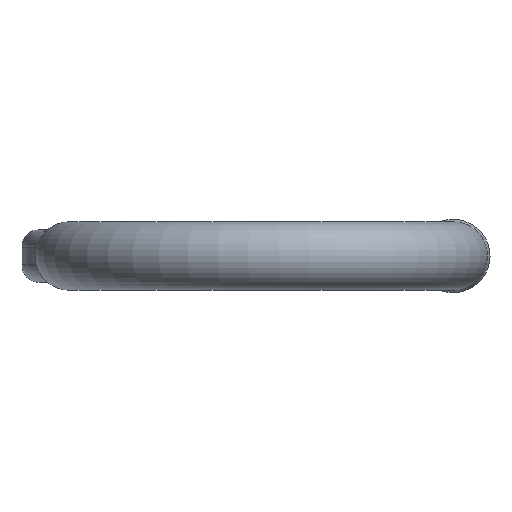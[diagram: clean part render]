
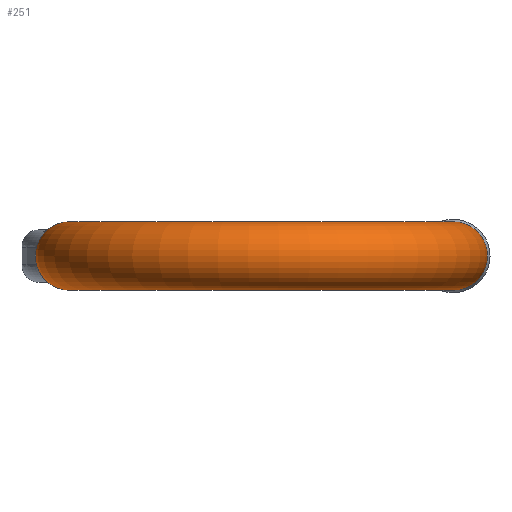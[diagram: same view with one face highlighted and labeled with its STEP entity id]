
A CAD part, front view. The second image highlights one B-rep face of the part: STEP entity #251.
In plain terms, the highlighted toroidal (fillet/blend) face has major radius 36.5 mm and minor radius 6.5 mm.
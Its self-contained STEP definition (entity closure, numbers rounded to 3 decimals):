
#217=TOROIDAL_SURFACE('',#2680,36.5,6.5);
#251=ADVANCED_FACE('',(#678,#679),#217,.T.);
#678=FACE_BOUND('',#711,.T.);
#679=FACE_BOUND('',#712,.T.);
#711=EDGE_LOOP('',(#1008));
#712=EDGE_LOOP('',(#1009));
#864=CIRCLE('',#2673,6.5);
#868=CIRCLE('',#2679,6.5);
#1008=ORIENTED_EDGE('',*,*,#2002,.T.);
#1009=ORIENTED_EDGE('',*,*,#1998,.F.);
#1744=VERTEX_POINT('',#3794);
#1748=VERTEX_POINT('',#3804);
#1998=EDGE_CURVE('',#1744,#1744,#864,.T.);
#2002=EDGE_CURVE('',#1748,#1748,#868,.T.);
#2673=AXIS2_PLACEMENT_3D('',#3793,#2878,#2879);
#2679=AXIS2_PLACEMENT_3D('',#3803,#2890,#2891);
#2680=AXIS2_PLACEMENT_3D('',#3805,#2892,#2893);
#2878=DIRECTION('',(0.,1.,0.));
#2879=DIRECTION('',(0.,0.,1.));
#2890=DIRECTION('',(0.,-1.,0.));
#2891=DIRECTION('',(0.,0.,1.));
#2892=DIRECTION('',(0.,0.,1.));
#2893=DIRECTION('',(1.,0.,0.));
#3793=CARTESIAN_POINT('',(36.5,-25.,0.));
#3794=CARTESIAN_POINT('',(36.5,-25.,6.5));
#3803=CARTESIAN_POINT('',(-36.5,-25.,0.));
#3804=CARTESIAN_POINT('',(-36.5,-25.,6.5));
#3805=CARTESIAN_POINT('',(0.,-25.,0.));
